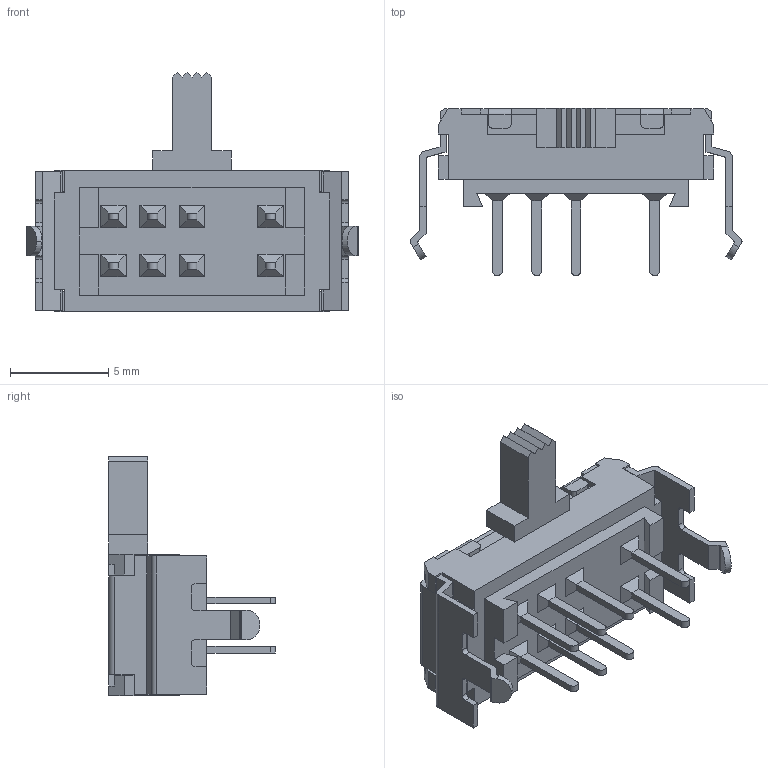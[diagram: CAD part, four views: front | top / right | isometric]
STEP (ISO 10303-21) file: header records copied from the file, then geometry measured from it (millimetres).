
FILE_DESCRIPTION (( 'STEP AP214' ), '1' );
FILE_NAME ('SSSS925700.STEP', '2011-04-05T10:53:56', ( '' ), ( '' ), 'SwSTEP 2.0', 'SolidWorks 2007', '' );
FILE_SCHEMA (( 'AUTOMOTIVE_DESIGN' ));
Length unit declared in the file: millimetre
Products named in the file (1): SSSS925700
Bounding box: 16.9 x 8.5 x 12.2 mm (x, y, z)
Volume: 445.7 mm3; surface area: 683.1 mm2
Topology: 1 solids, 1 shells, 289 faces, 780 edges, 502 vertices
Faces by surface type: plane 251, cylinder 38
Entity records: 12069 total; most frequent: CARTESIAN_POINT 1572, ORIENTED_EDGE 1560, DIRECTION 1436, EDGE_CURVE 780, VECTOR 704, LINE 704, VERTEX_POINT 502, AXIS2_PLACEMENT_3D 366
